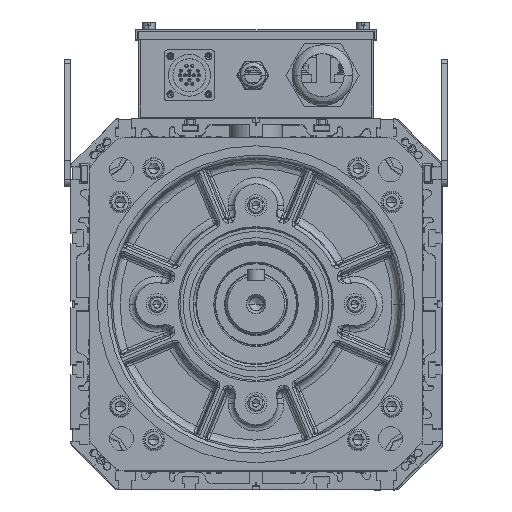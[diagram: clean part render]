
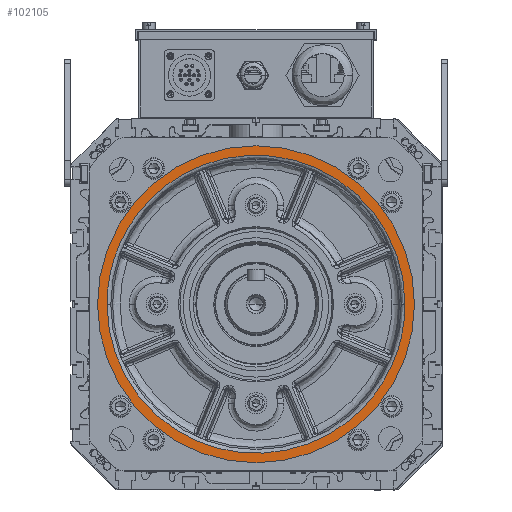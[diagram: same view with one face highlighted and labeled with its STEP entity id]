
A CAD part, top view. The second image highlights one B-rep face of the part: STEP entity #102105.
In plain terms, the highlighted planar face has unit normal (0, 0, 1) as drawn and (0, 0, -1) by its records, which use the part's own axes.
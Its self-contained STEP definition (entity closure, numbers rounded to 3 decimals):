
#8863 = EDGE_LOOP ( 'NONE', ( #91518, #147661 ) ) ;
#11439 = EDGE_LOOP ( 'NONE', ( #49655, #59544 ) ) ;
#11521 = VERTEX_POINT ( 'NONE', #40577 ) ;
#17700 = CARTESIAN_POINT ( 'NONE',  ( 58.202, 130.856, 132.5 ) ) ;
#18548 = DIRECTION ( 'NONE',  ( 0., 0., 1. ) ) ;
#21539 = EDGE_CURVE ( 'NONE', #93518, #67645, #43485, .T. ) ;
#26267 = FACE_OUTER_BOUND ( 'NONE', #8863, .T. ) ;
#28650 = PLANE ( 'NONE',  #43300 ) ;
#32039 = DIRECTION ( 'NONE',  ( 0., 0., 1. ) ) ;
#33469 = EDGE_CURVE ( 'NONE', #51351, #11521, #126851, .T. ) ;
#40577 = CARTESIAN_POINT ( 'NONE',  ( -66.798, 5.856, 132.5 ) ) ;
#43096 = CARTESIAN_POINT ( 'NONE',  ( -59.315, 5.856, 132.5 ) ) ;
#43300 = AXIS2_PLACEMENT_3D ( 'NONE', #17700, #63317, #124413 ) ;
#43485 =( BOUNDED_CURVE ( )  B_SPLINE_CURVE ( 3, ( #43096, #68492, #80435, #138897 ),
 .UNSPECIFIED., .F., .F. ) 
 B_SPLINE_CURVE_WITH_KNOTS ( ( 4, 4 ),
 ( 0., 1. ),
 .UNSPECIFIED. ) 
 CURVE ( )  GEOMETRIC_REPRESENTATION_ITEM ( )  RATIONAL_B_SPLINE_CURVE ( ( 1., 0.333, 0.333, 1. ) ) 
 REPRESENTATION_ITEM ( '' )  );
#45730 = CARTESIAN_POINT ( 'NONE',  ( 175.72, -229.179, 132.5 ) ) ;
#49655 = ORIENTED_EDGE ( 'NONE', *, *, #85285, .F. ) ;
#49844 = EDGE_CURVE ( 'NONE', #11521, #51351, #69609, .T. ) ;
#51351 = VERTEX_POINT ( 'NONE', #84536 ) ;
#53249 = DIRECTION ( 'NONE',  ( -1., 0., 0. ) ) ;
#54807 = DIRECTION ( 'NONE',  ( -1., 0., 0. ) ) ;
#59544 = ORIENTED_EDGE ( 'NONE', *, *, #21539, .F. ) ;
#63317 = DIRECTION ( 'NONE',  ( 0., 0., 1. ) ) ;
#67645 = VERTEX_POINT ( 'NONE', #149407 ) ;
#68492 = CARTESIAN_POINT ( 'NONE',  ( -59.315, 240.89, 132.5 ) ) ;
#69609 = CIRCLE ( 'NONE', #132129, 125. ) ;
#71165 = CARTESIAN_POINT ( 'NONE',  ( 175.72, 5.856, 132.5 ) ) ;
#74396 = FACE_BOUND ( 'NONE', #11439, .T. ) ;
#75144 =( BOUNDED_CURVE ( )  B_SPLINE_CURVE ( 3, ( #71165, #45730, #82025, #130213 ),
 .UNSPECIFIED., .F., .F. ) 
 B_SPLINE_CURVE_WITH_KNOTS ( ( 4, 4 ),
 ( 0., 1. ),
 .UNSPECIFIED. ) 
 CURVE ( )  GEOMETRIC_REPRESENTATION_ITEM ( )  RATIONAL_B_SPLINE_CURVE ( ( 1., 0.333, 0.333, 1. ) ) 
 REPRESENTATION_ITEM ( '' )  );
#80435 = CARTESIAN_POINT ( 'NONE',  ( 175.72, 240.89, 132.5 ) ) ;
#82025 = CARTESIAN_POINT ( 'NONE',  ( -59.315, -229.179, 132.5 ) ) ;
#84536 = CARTESIAN_POINT ( 'NONE',  ( 183.202, 5.856, 132.5 ) ) ;
#85285 = EDGE_CURVE ( 'NONE', #67645, #93518, #75144, .T. ) ;
#90444 = AXIS2_PLACEMENT_3D ( 'NONE', #148473, #18548, #53249 ) ;
#91518 = ORIENTED_EDGE ( 'NONE', *, *, #49844, .F. ) ;
#93518 = VERTEX_POINT ( 'NONE', #140673 ) ;
#102105 = ADVANCED_FACE ( 'NONE', ( #26267, #74396 ), #28650, .F. ) ;
#124413 = DIRECTION ( 'NONE',  ( 1., 0., 0. ) ) ;
#126851 = CIRCLE ( 'NONE', #90444, 125. ) ;
#130213 = CARTESIAN_POINT ( 'NONE',  ( -59.315, 5.856, 132.5 ) ) ;
#132129 = AXIS2_PLACEMENT_3D ( 'NONE', #148476, #32039, #54807 ) ;
#138897 = CARTESIAN_POINT ( 'NONE',  ( 175.72, 5.856, 132.5 ) ) ;
#140673 = CARTESIAN_POINT ( 'NONE',  ( -59.315, 5.856, 132.5 ) ) ;
#147661 = ORIENTED_EDGE ( 'NONE', *, *, #33469, .F. ) ;
#148473 = CARTESIAN_POINT ( 'NONE',  ( 58.202, 5.856, 132.5 ) ) ;
#148476 = CARTESIAN_POINT ( 'NONE',  ( 58.202, 5.856, 132.5 ) ) ;
#149407 = CARTESIAN_POINT ( 'NONE',  ( 175.72, 5.856, 132.5 ) ) ;
